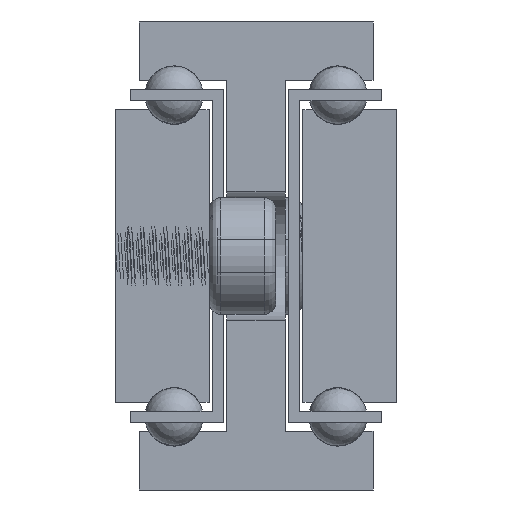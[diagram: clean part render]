
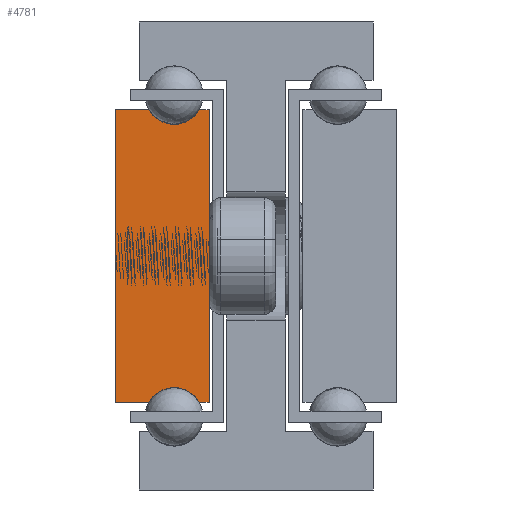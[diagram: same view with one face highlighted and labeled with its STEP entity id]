
A CAD part, front view. The second image highlights one B-rep face of the part: STEP entity #4781.
In plain terms, the highlighted planar face has unit normal (0, -1, 0).
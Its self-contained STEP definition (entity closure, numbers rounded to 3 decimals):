
#468=LINE('',#49206,#678);
#471=LINE('',#49212,#681);
#475=LINE('',#49224,#685);
#478=LINE('',#49230,#688);
#481=LINE('',#49236,#691);
#485=LINE('',#49246,#695);
#678=VECTOR('',#5664,1.);
#681=VECTOR('',#5669,1.);
#685=VECTOR('',#5681,1.);
#688=VECTOR('',#5686,1.);
#691=VECTOR('',#5691,1.);
#695=VECTOR('',#5703,1.);
#893=PLANE('',#5146);
#985=CIRCLE('',#5137,2.5);
#987=CIRCLE('',#5143,2.5);
#1353=FACE_OUTER_BOUND('',#1663,.T.);
#1663=EDGE_LOOP('',(#3662,#3663,#3664,#3665,#3666,#3667,#3668,#3669));
#2350=VERTEX_POINT('',#49203);
#2351=VERTEX_POINT('',#49205);
#2353=VERTEX_POINT('',#49211);
#2355=VERTEX_POINT('',#49217);
#2357=VERTEX_POINT('',#49223);
#2359=VERTEX_POINT('',#49229);
#2361=VERTEX_POINT('',#49235);
#2363=VERTEX_POINT('',#49241);
#2920=EDGE_CURVE('',#2351,#2350,#468,.T.);
#2923=EDGE_CURVE('',#2353,#2351,#471,.T.);
#2926=EDGE_CURVE('',#2355,#2353,#985,.T.);
#2929=EDGE_CURVE('',#2357,#2355,#475,.T.);
#2932=EDGE_CURVE('',#2359,#2357,#478,.T.);
#2935=EDGE_CURVE('',#2361,#2359,#481,.T.);
#2938=EDGE_CURVE('',#2363,#2361,#987,.T.);
#2941=EDGE_CURVE('',#2350,#2363,#485,.T.);
#3662=ORIENTED_EDGE('',*,*,#2941,.T.);
#3663=ORIENTED_EDGE('',*,*,#2938,.T.);
#3664=ORIENTED_EDGE('',*,*,#2935,.T.);
#3665=ORIENTED_EDGE('',*,*,#2932,.T.);
#3666=ORIENTED_EDGE('',*,*,#2929,.T.);
#3667=ORIENTED_EDGE('',*,*,#2926,.T.);
#3668=ORIENTED_EDGE('',*,*,#2923,.T.);
#3669=ORIENTED_EDGE('',*,*,#2920,.T.);
#4781=ADVANCED_FACE('',(#1353),#893,.T.);
#5137=AXIS2_PLACEMENT_3D('',#49218,#5675,#5676);
#5143=AXIS2_PLACEMENT_3D('',#49242,#5697,#5698);
#5146=AXIS2_PLACEMENT_3D('',#49248,#5706,#5707);
#5664=DIRECTION('',(0.,0.,-1.));
#5669=DIRECTION('',(-1.,0.,0.));
#5675=DIRECTION('center_axis',(0.,1.,0.));
#5676=DIRECTION('ref_axis',(-0.866,0.,-0.5));
#5681=DIRECTION('',(-1.,0.,0.));
#5686=DIRECTION('',(0.,0.,1.));
#5691=DIRECTION('',(1.,0.,0.));
#5697=DIRECTION('center_axis',(0.,1.,0.));
#5698=DIRECTION('ref_axis',(0.866,0.,0.5));
#5703=DIRECTION('',(1.,0.,0.));
#5706=DIRECTION('center_axis',(0.,-1.,0.));
#5707=DIRECTION('ref_axis',(1.,0.,0.));
#49203=CARTESIAN_POINT('',(76.625,-430.349,412.5));
#49205=CARTESIAN_POINT('',(76.625,-430.349,437.5));
#49206=CARTESIAN_POINT('',(76.625,-430.349,412.5));
#49211=CARTESIAN_POINT('',(79.46,-430.349,437.5));
#49212=CARTESIAN_POINT('',(76.625,-430.349,437.5));
#49217=CARTESIAN_POINT('',(83.79,-430.349,437.5));
#49218=CARTESIAN_POINT('Origin',(81.625,-430.349,438.75));
#49223=CARTESIAN_POINT('',(84.625,-430.349,437.5));
#49224=CARTESIAN_POINT('',(83.79,-430.349,437.5));
#49229=CARTESIAN_POINT('',(84.625,-430.349,412.5));
#49230=CARTESIAN_POINT('',(84.625,-430.349,437.5));
#49235=CARTESIAN_POINT('',(83.79,-430.349,412.5));
#49236=CARTESIAN_POINT('',(84.625,-430.349,412.5));
#49241=CARTESIAN_POINT('',(79.46,-430.349,412.5));
#49242=CARTESIAN_POINT('Origin',(81.625,-430.349,411.25));
#49246=CARTESIAN_POINT('',(79.46,-430.349,412.5));
#49248=CARTESIAN_POINT('Origin',(80.613,-430.349,425.));
